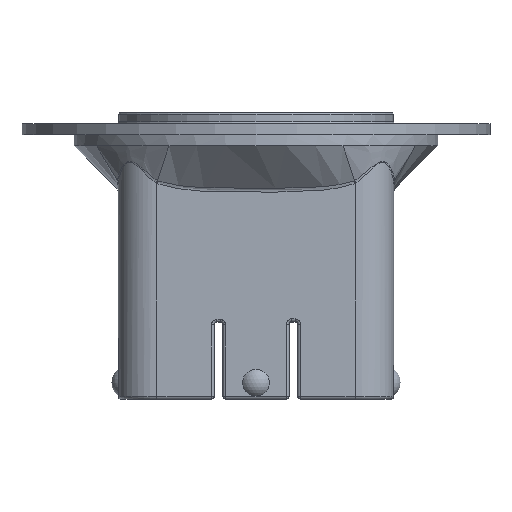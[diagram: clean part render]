
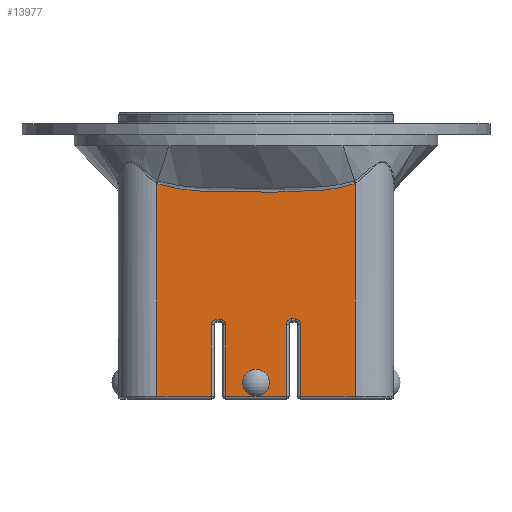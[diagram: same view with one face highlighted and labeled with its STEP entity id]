
A CAD part, left-side view. The second image highlights one B-rep face of the part: STEP entity #13977.
In plain terms, the highlighted planar face has unit normal (-1, 0, 0).
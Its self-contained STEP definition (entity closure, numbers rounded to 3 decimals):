
#510=PLANE('',#14865);
#777=CIRCLE('',#14866,1.);
#778=CIRCLE('',#14867,1.);
#779=CIRCLE('',#14868,1.);
#780=CIRCLE('',#14869,1.);
#781=CIRCLE('',#14870,2.437);
#1126=VECTOR('',#15793,1.);
#1127=VECTOR('',#15794,1.);
#1128=VECTOR('',#15795,1.);
#1129=VECTOR('',#15798,1.);
#1130=VECTOR('',#15801,1.);
#1131=VECTOR('',#15802,1.);
#1132=VECTOR('',#15803,1.);
#1133=VECTOR('',#15806,1.);
#1134=VECTOR('',#15809,1.);
#1135=VECTOR('',#15810,1.);
#1136=VECTOR('',#15811,1.);
#2172=LINE('',#26775,#1126);
#2173=LINE('',#26777,#1127);
#2174=LINE('',#26779,#1128);
#2175=LINE('',#26783,#1129);
#2176=LINE('',#26787,#1130);
#2177=LINE('',#26789,#1131);
#2178=LINE('',#26791,#1132);
#2179=LINE('',#26795,#1133);
#2180=LINE('',#26799,#1134);
#2181=LINE('',#26801,#1135);
#2182=LINE('',#26803,#1136);
#3253=VERTEX_POINT('',#21774);
#3254=VERTEX_POINT('',#21793);
#3307=VERTEX_POINT('',#26776);
#3308=VERTEX_POINT('',#26778);
#3309=VERTEX_POINT('',#26780);
#3310=VERTEX_POINT('',#26782);
#3311=VERTEX_POINT('',#26784);
#3312=VERTEX_POINT('',#26786);
#3313=VERTEX_POINT('',#26788);
#3314=VERTEX_POINT('',#26790);
#3315=VERTEX_POINT('',#26792);
#3316=VERTEX_POINT('',#26794);
#3317=VERTEX_POINT('',#26796);
#3318=VERTEX_POINT('',#26798);
#3319=VERTEX_POINT('',#26800);
#3320=VERTEX_POINT('',#26802);
#3321=VERTEX_POINT('',#26805);
#4652=B_SPLINE_CURVE_WITH_KNOTS('',3,(#21775,#21776,#21777,#21778,#21779,
#21780,#21781,#21782,#21783,#21784,#21785,#21786,#21787,#21788,#21789,#21790,
#21791,#21792),.UNSPECIFIED.,.F.,.U.,(4,2,2,2,2,2,2,2,4),(-4.29,
-3.579,-2.872,-2.43,-2.154,
-1.878,-1.436,-0.835,-0.01),
 .UNSPECIFIED.);
#5501=EDGE_CURVE('',#3253,#3254,#4652,.T.);
#5576=EDGE_CURVE('',#3307,#3253,#2172,.T.);
#5577=EDGE_CURVE('',#3308,#3307,#2173,.T.);
#5578=EDGE_CURVE('',#3309,#3308,#2174,.T.);
#5579=EDGE_CURVE('',#3310,#3309,#777,.T.);
#5580=EDGE_CURVE('',#3311,#3310,#2175,.T.);
#5581=EDGE_CURVE('',#3312,#3311,#778,.T.);
#5582=EDGE_CURVE('',#3313,#3312,#2176,.T.);
#5583=EDGE_CURVE('',#3314,#3313,#2177,.T.);
#5584=EDGE_CURVE('',#3315,#3314,#2178,.T.);
#5585=EDGE_CURVE('',#3316,#3315,#779,.T.);
#5586=EDGE_CURVE('',#3317,#3316,#2179,.T.);
#5587=EDGE_CURVE('',#3318,#3317,#780,.T.);
#5588=EDGE_CURVE('',#3319,#3318,#2180,.T.);
#5589=EDGE_CURVE('',#3320,#3319,#2181,.T.);
#5590=EDGE_CURVE('',#3254,#3320,#2182,.T.);
#5591=EDGE_CURVE('',#3321,#3321,#781,.T.);
#7888=ORIENTED_EDGE('',*,*,#5501,.F.);
#7889=ORIENTED_EDGE('',*,*,#5576,.F.);
#7890=ORIENTED_EDGE('',*,*,#5577,.F.);
#7891=ORIENTED_EDGE('',*,*,#5578,.F.);
#7892=ORIENTED_EDGE('',*,*,#5579,.F.);
#7893=ORIENTED_EDGE('',*,*,#5580,.F.);
#7894=ORIENTED_EDGE('',*,*,#5581,.F.);
#7895=ORIENTED_EDGE('',*,*,#5582,.F.);
#7896=ORIENTED_EDGE('',*,*,#5583,.F.);
#7897=ORIENTED_EDGE('',*,*,#5584,.F.);
#7898=ORIENTED_EDGE('',*,*,#5585,.F.);
#7899=ORIENTED_EDGE('',*,*,#5586,.F.);
#7900=ORIENTED_EDGE('',*,*,#5587,.F.);
#7901=ORIENTED_EDGE('',*,*,#5588,.F.);
#7902=ORIENTED_EDGE('',*,*,#5589,.F.);
#7903=ORIENTED_EDGE('',*,*,#5590,.F.);
#7904=ORIENTED_EDGE('',*,*,#5591,.T.);
#12076=EDGE_LOOP('',(#7888,#7889,#7890,#7891,#7892,#7893,#7894,#7895,#7896,
#7897,#7898,#7899,#7900,#7901,#7902,#7903));
#12077=EDGE_LOOP('',(#7904));
#13036=FACE_BOUND('',#12076,.T.);
#13037=FACE_BOUND('',#12077,.T.);
#13977=ADVANCED_FACE('',(#13036,#13037),#510,.T.);
#14865=AXIS2_PLACEMENT_3D('',#26774,#15792,$);
#14866=AXIS2_PLACEMENT_3D('',#26781,#15796,#15797);
#14867=AXIS2_PLACEMENT_3D('',#26785,#15799,#15800);
#14868=AXIS2_PLACEMENT_3D('',#26793,#15804,#15805);
#14869=AXIS2_PLACEMENT_3D('',#26797,#15807,#15808);
#14870=AXIS2_PLACEMENT_3D('',#26804,#15812,#15813);
#15792=DIRECTION('',(-1.,0.,0.));
#15793=DIRECTION('',(0.,0.,1.));
#15794=DIRECTION('',(0.,1.,0.));
#15795=DIRECTION('',(0.,0.,-1.));
#15796=DIRECTION('',(-1.,0.,0.));
#15797=DIRECTION('',(0.,0.707,0.707));
#15798=DIRECTION('',(0.,1.,0.));
#15799=DIRECTION('',(-1.,0.,0.));
#15800=DIRECTION('',(0.,-0.707,0.707));
#15801=DIRECTION('',(0.,0.,1.));
#15802=DIRECTION('',(0.,1.,0.));
#15803=DIRECTION('',(0.,0.,-1.));
#15804=DIRECTION('',(-1.,0.,0.));
#15805=DIRECTION('',(0.,0.707,0.707));
#15806=DIRECTION('',(0.,1.,0.));
#15807=DIRECTION('',(-1.,0.,0.));
#15808=DIRECTION('',(0.,-0.707,0.707));
#15809=DIRECTION('',(0.,0.,1.));
#15810=DIRECTION('',(0.,1.,0.));
#15811=DIRECTION('',(0.,0.,-1.));
#15812=DIRECTION('',(1.,0.,0.));
#15813=DIRECTION('',(0.,0.,-2.437));
#21774=CARTESIAN_POINT('',(0.,43.,39.165));
#21775=CARTESIAN_POINT('',(0.,43.,39.165));
#21776=CARTESIAN_POINT('',(0.,41.775,38.743));
#21777=CARTESIAN_POINT('',(0.,40.446,38.429));
#21778=CARTESIAN_POINT('',(0.,37.518,37.965));
#21779=CARTESIAN_POINT('',(0.,35.921,37.816));
#21780=CARTESIAN_POINT('',(0.,33.045,37.67));
#21781=CARTESIAN_POINT('',(0.,31.872,37.637));
#21782=CARTESIAN_POINT('',(0.,29.843,37.605));
#21783=CARTESIAN_POINT('',(0.,29.033,37.597));
#21784=CARTESIAN_POINT('',(0.,27.35,37.588));
#21785=CARTESIAN_POINT('',(0.,26.478,37.587));
#21786=CARTESIAN_POINT('',(0.,24.12,37.585));
#21787=CARTESIAN_POINT('',(0.,22.623,37.586));
#21788=CARTESIAN_POINT('',(0.,19.123,37.612));
#21789=CARTESIAN_POINT('',(0.,17.103,37.644));
#21790=CARTESIAN_POINT('',(0.,12.349,37.94));
#21791=CARTESIAN_POINT('',(0.,9.599,38.268));
#21792=CARTESIAN_POINT('',(0.,7.,39.165));
#21793=CARTESIAN_POINT('',(0.,7.,39.165));
#26774=CARTESIAN_POINT('',(0.,25.,0.));
#26775=CARTESIAN_POINT('',(0.,43.,0.));
#26776=CARTESIAN_POINT('',(0.,43.,0.5));
#26777=CARTESIAN_POINT('',(0.,25.,0.5));
#26778=CARTESIAN_POINT('',(0.,33.087,0.5));
#26779=CARTESIAN_POINT('',(0.,33.087,3.5));
#26780=CARTESIAN_POINT('',(0.,33.087,13.5));
#26781=CARTESIAN_POINT('',(0.,32.087,13.5));
#26782=CARTESIAN_POINT('',(0.,32.087,14.5));
#26783=CARTESIAN_POINT('',(0.,28.397,14.5));
#26784=CARTESIAN_POINT('',(0.,31.5,14.5));
#26785=CARTESIAN_POINT('',(0.,31.5,13.5));
#26786=CARTESIAN_POINT('',(0.,30.5,13.5));
#26787=CARTESIAN_POINT('',(0.,30.5,3.5));
#26788=CARTESIAN_POINT('',(0.,30.5,0.5));
#26789=CARTESIAN_POINT('',(0.,25.,0.5));
#26790=CARTESIAN_POINT('',(0.,19.5,0.5));
#26791=CARTESIAN_POINT('',(0.,19.5,3.5));
#26792=CARTESIAN_POINT('',(0.,19.5,13.604));
#26793=CARTESIAN_POINT('',(0.,18.5,13.604));
#26794=CARTESIAN_POINT('',(0.,18.5,14.604));
#26795=CARTESIAN_POINT('',(0.,21.603,14.604));
#26796=CARTESIAN_POINT('',(0.,17.912,14.604));
#26797=CARTESIAN_POINT('',(0.,17.912,13.604));
#26798=CARTESIAN_POINT('',(0.,16.912,13.604));
#26799=CARTESIAN_POINT('',(0.,16.912,3.5));
#26800=CARTESIAN_POINT('',(0.,16.912,0.5));
#26801=CARTESIAN_POINT('',(0.,25.,0.5));
#26802=CARTESIAN_POINT('',(0.,7.,0.5));
#26803=CARTESIAN_POINT('',(0.,7.,0.));
#26804=CARTESIAN_POINT('',(0.,25.,3.));
#26805=CARTESIAN_POINT('',(0.,25.,5.437));
